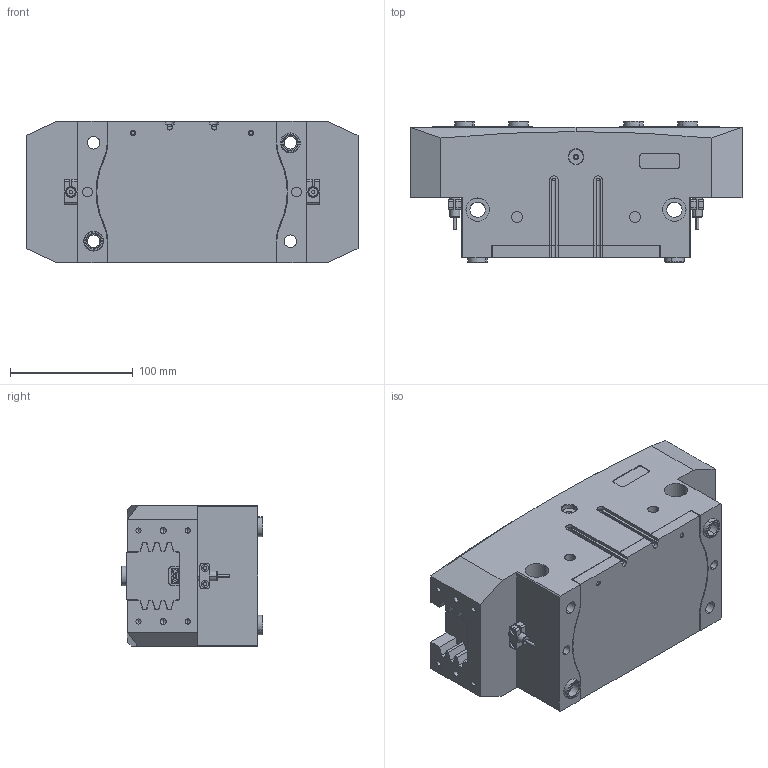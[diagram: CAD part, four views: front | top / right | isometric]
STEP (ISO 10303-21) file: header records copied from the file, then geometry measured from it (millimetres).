
FILE_DESCRIPTION (( 'STEP AP214' ), '1' );
FILE_NAME ('ST117-17.STEP', '2026-04-11T16:15:30', ( '' ), ( '' ), 'SwSTEP 2.0', 'SolidWorks 2024', '' );
FILE_SCHEMA (( 'AUTOMOTIVE_DESIGN' ));
Length unit declared in the file: millimetre
Products named in the file (12): ST117-17-2; ________.sldasm-Part-9_1; ST117-A1; ST117-A2; ____16__12__8_1; ________________[GBT70_1-2008][M2.5__8]_1; ST117-T2; ST117-T1; 8-30 _______1; ST117-17; ST-MA-001; ____
Assembly tree (21 placements, depth 4):
  ST117-17
    ST117-17-2
      ____  x2
        ________.sldasm-Part-9_1
        ________________[GBT70_1-2008][M2.5__8]_1
      ST117-A1
      ST117-A2
      8-30 _______1  x2
      ST-MA-001  x2
      ____16__12__8_1  x6
      ST117-T1  x2
      ST117-T2
Bounding box: 270 x 115 x 115 mm (x, y, z)
Volume: 2544069.7 mm3; surface area: 317413.1 mm2
Topology: 21 solids, 25 shells, 925 faces, 2260 edges, 1397 vertices
Faces by surface type: plane 360, cylinder 338, cone 211, torus 16
Entity records: 25991 total; most frequent: CARTESIAN_POINT 5647, DIRECTION 3402, ORIENTED_EDGE 3062, EDGE_CURVE 1531, AXIS2_PLACEMENT_3D 1239, VERTEX_POINT 981, LINE 924, VECTOR 924
